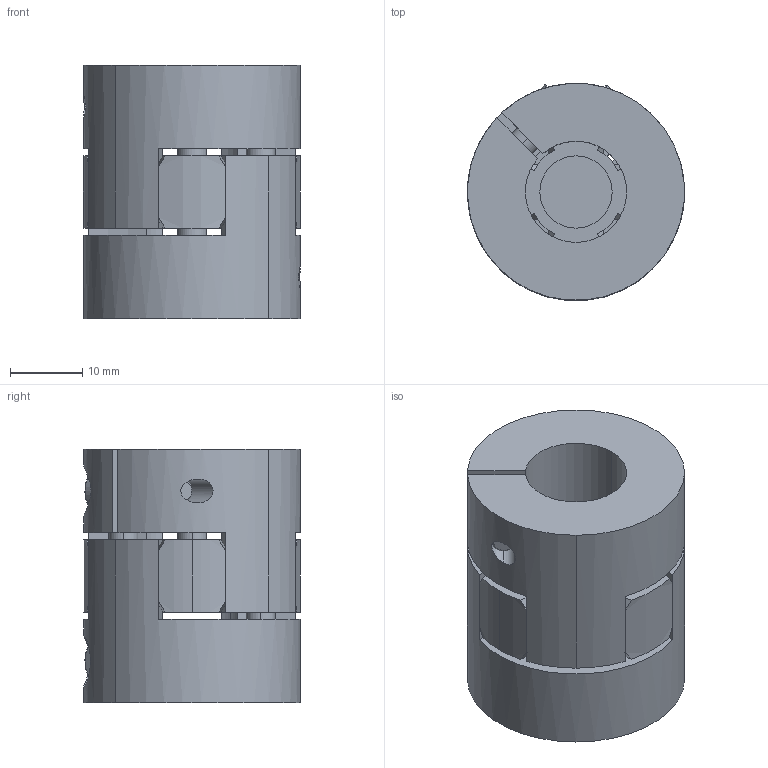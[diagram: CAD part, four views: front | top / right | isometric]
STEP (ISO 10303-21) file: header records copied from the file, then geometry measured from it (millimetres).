
FILE_DESCRIPTION (( 'STEP AP214' ), '1' );
FILE_NAME ('LC-C-030-12B-14B.STEP', '2019-09-28T06:20:31', ( 'admin' ), ( 'Microsoft' ), 'SwSTEP 2.0', 'SolidWorks 2016', '' );
FILE_SCHEMA (( 'AUTOMOTIVE_DESIGN' ));
Length unit declared in the file: millimetre
Products named in the file (1): LC-C-030-12B-14B
Bounding box: 30 x 30 x 35 mm (x, y, z)
Volume: 19187.5 mm3; surface area: 10689.5 mm2
Topology: 5 solids, 5 shells, 157 faces, 385 edges, 252 vertices
Faces by surface type: cylinder 81, plane 44, cone 24, torus 8
Entity records: 6694 total; most frequent: CARTESIAN_POINT 1111, DIRECTION 865, ORIENTED_EDGE 770, EDGE_CURVE 385, AXIS2_PLACEMENT_3D 362, VERTEX_POINT 252, CIRCLE 204, EDGE_LOOP 179
